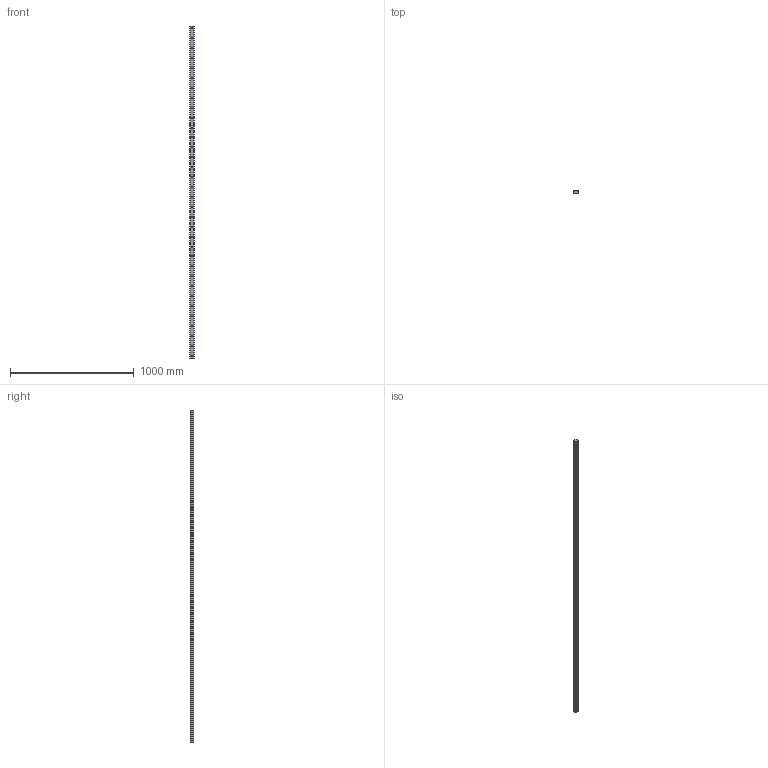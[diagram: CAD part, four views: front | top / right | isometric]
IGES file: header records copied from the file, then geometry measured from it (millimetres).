
Start section: SolidWorks IGES file using analytic representation for surfaces
Global section: file name: C:\Users\IanO\Desktop\Temp File\GENERAL\L1016_v2\L1016.RF35_v2\L1016.RF35_v2_20190612_IGES\L1016.RF35-2680.igs; native system: SolidWorks 2017; preprocessor: SolidWorks 2017; author: IanO; date: 190613.173115; units: millimetre
Bounding box: 34 x 26 x 2680 mm (x, y, z)
Surface area: 349291.6 mm2 (no closed solid volume)
Topology: 0 solids, 0 shells, 264 faces, 4248 edges, 4180 vertices
Faces by surface type: revolution 208, bspline 56
